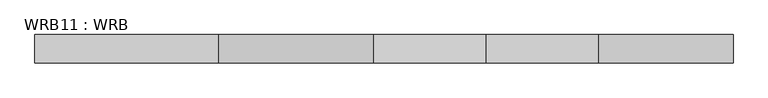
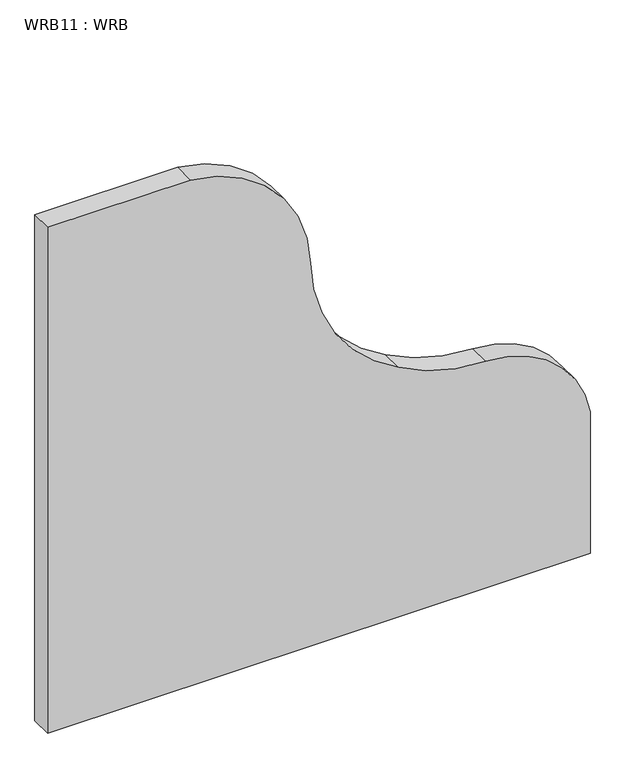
"""IFC4 building model written with IfcOpenShell, lengths in millimetres: proxy geometry, WRB11 : WRB."""

from ifc_helpers import new_model, si_unit, point, frame, frame_2d, origin, place, context, project, spatial, polyline, circle_curve, trimmed, segment, composite_curve, outline, extrude, source, transform, mapped, element, save


def wrb11_wrb_521c71ec(model_context):
    return source(origin(), model_context, "Body", "SweptSolid", [
        extrude(outline(composite_curve([segment(polyline([(-19.05, 8200.047143), (-19.05, 9457.347143), (326.9760682, 9457.347143)]), True, "CONTINUOUS"), segment(trimmed(circle_curve(frame_2d((286.9857554, 9212.0368291)), 248.5485369), [point((326.9760682, 9457.347143))], [point((535.510358, 9215.4860471))], False, "CARTESIAN"), True, "CONTINUOUS"), segment(trimmed(circle_curve(frame_2d((948.5891228, 9221.219076)), 413.1185466), [point((535.510358, 9215.4860471))], [point((591.8706469, 9012.847143))], True, "CARTESIAN"), True, "CONTINUOUS"), segment(trimmed(circle_curve(frame_2d((925.1337293, 9183.6093528)), 374.4649709), [point((591.8706469, 9012.847143))], [point((918.4023164, 8809.204889))], True, "CARTESIAN"), True, "CONTINUOUS"), segment(trimmed(circle_curve(frame_2d((912.871688, 8501.58864)), 307.6659626), [point((918.4023164, 8809.204889))], [point((1219.2, 8530.247143))], False, "CARTESIAN"), True, "CONTINUOUS"), segment(polyline([(1219.2, 8530.247143), (1219.2, 8200.047143), (-19.05, 8200.047143)]), True, "CONTINUOUS")], self_intersect=False)), frame((0.0, 2795.8765644, 0.0), z_axis=(0.0, 1.0, 0.0), x_axis=(0.0, 0.0, 1.0)), (0.0, 0.0, 1.0), 50.8),
    ])


if __name__ == "__main__":
    model = new_model("IFC4")
    model_context = context("Model", 3, world=origin())
    ifc_project = project(units=[si_unit("LENGTHUNIT", "METRE", prefix="MILLI")], contexts=[model_context])
    site = spatial("IfcSite", under=ifc_project)
    building = spatial("IfcBuilding", under=site)
    placement = place(None, origin())
    wrb11_wrb_shape = wrb11_wrb_521c71ec(model_context)
    element("IfcBuildingElementProxy", 1, Name="WRB11 : WRB", ObjectType="WRB11 : WRB", at=placement, inside=building, context=model_context, shape_type="MappedRepresentation", body=[
        mapped(wrb11_wrb_shape, transform((0.0, 0.0, 0.0), x_axis=(1.0, 0.0, 0.0), y_axis=(0.0, 1.0, 0.0), z_axis=(0.0, 0.0, 1.0))),
    ])
    save(model, "model.ifc")
